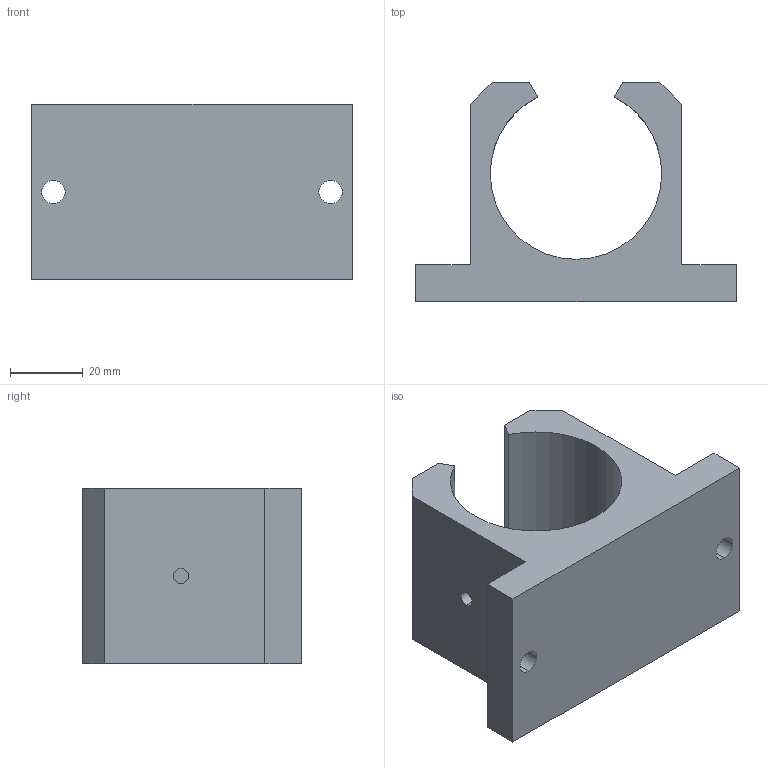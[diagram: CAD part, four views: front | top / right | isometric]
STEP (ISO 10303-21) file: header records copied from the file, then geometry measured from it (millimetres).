
FILE_DESCRIPTION (( 'STEP AP214' ), '1' );
FILE_NAME ('KALGSO-30.step', '2020-03-04T13:16:21', ( '' ), ( '' ), 'SwSTEP 2.0', 'SolidWorks 2019', '' );
FILE_SCHEMA (( 'AUTOMOTIVE_DESIGN' ));
Length unit declared in the file: millimetre
Products named in the file (1): KALGSO-30
Bounding box: 88 x 60 x 48 mm (x, y, z)
Volume: 92949.8 mm3; surface area: 23348.4 mm2
Topology: 1 solids, 1 shells, 24 faces, 69 edges, 46 vertices
Faces by surface type: plane 15, cylinder 9
Entity records: 901 total; most frequent: CARTESIAN_POINT 192, ORIENTED_EDGE 138, DIRECTION 131, EDGE_CURVE 69, LINE 49, VECTOR 49, VERTEX_POINT 46, AXIS2_PLACEMENT_3D 41
